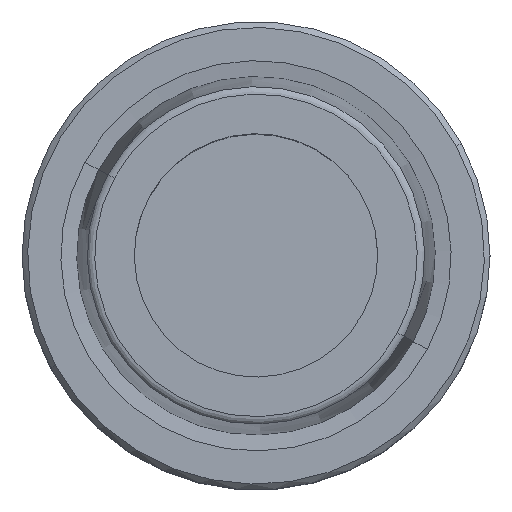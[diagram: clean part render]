
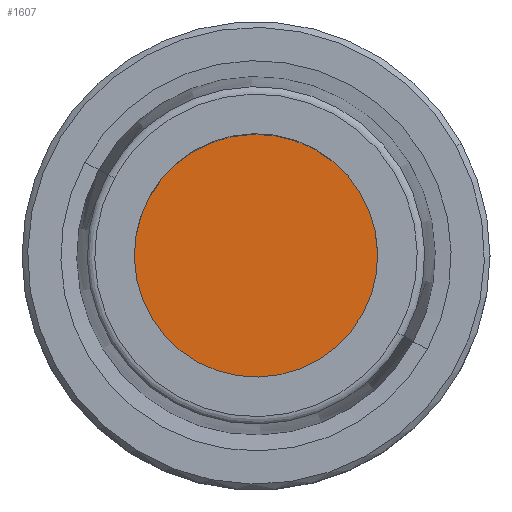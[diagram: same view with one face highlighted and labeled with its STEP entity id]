
A CAD part, top view. The second image highlights one B-rep face of the part: STEP entity #1607.
In plain terms, the highlighted planar face has unit normal (0, 0, 1).
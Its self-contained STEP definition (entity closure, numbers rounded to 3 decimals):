
#1562=AXIS2_PLACEMENT_3D('Circle Axis2P3D',#1560,#1561,$) ;
#1588=AXIS2_PLACEMENT_3D('Circle Axis2P3D',#1586,#1587,$) ;
#1601=AXIS2_PLACEMENT_3D('Plane Axis2P3D',#1598,#1599,#1600) ;
#1560=CARTESIAN_POINT('Axis2P3D Location',(0.,0.,-10.)) ;
#1564=CARTESIAN_POINT('Vertex',(-11.409,6.233,-10.)) ;
#1566=CARTESIAN_POINT('Vertex',(11.409,-6.233,-10.)) ;
#1586=CARTESIAN_POINT('Axis2P3D Location',(0.,0.,-10.)) ;
#1598=CARTESIAN_POINT('Axis2P3D Location',(-11.8,0.,-10.)) ;
#1561=DIRECTION('Axis2P3D Direction',(0.,0.,-1.)) ;
#1587=DIRECTION('Axis2P3D Direction',(0.,0.,-1.)) ;
#1599=DIRECTION('Axis2P3D Direction',(0.,0.,-1.)) ;
#1600=DIRECTION('Axis2P3D XDirection',(0.,1.,0.)) ;
#1604=ORIENTED_EDGE('',*,*,#1568,.T.) ;
#1605=ORIENTED_EDGE('',*,*,#1590,.T.) ;
#1607=ADVANCED_FACE('NOCUT',(#1606),#1602,.F.) ;
#1563=CIRCLE('generated circle',#1562,13.) ;
#1589=CIRCLE('generated circle',#1588,13.) ;
#1568=EDGE_CURVE('',#1565,#1567,#1563,.F.) ;
#1590=EDGE_CURVE('',#1567,#1565,#1589,.F.) ;
#1603=EDGE_LOOP('',(#1604,#1605)) ;
#1606=FACE_OUTER_BOUND('',#1603,.T.) ;
#1602=PLANE('',#1601) ;
#1565=VERTEX_POINT('',#1564) ;
#1567=VERTEX_POINT('',#1566) ;
